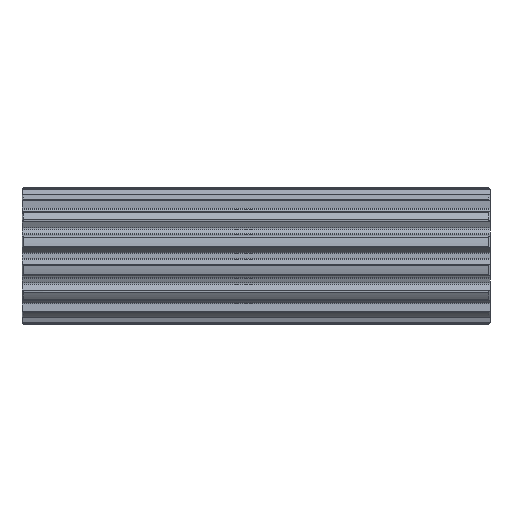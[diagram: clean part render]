
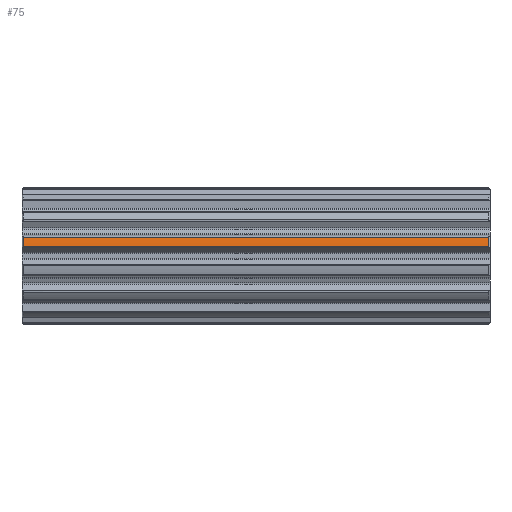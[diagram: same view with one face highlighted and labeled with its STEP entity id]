
A CAD part, front view. The second image highlights one B-rep face of the part: STEP entity #75.
In plain terms, the highlighted cylindrical face has radius 23.37 mm (diameter 46.74 mm), a partial arc.
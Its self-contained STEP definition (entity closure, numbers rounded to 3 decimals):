
#75=ADVANCED_FACE('',(#271),#272,.T.);
#271=FACE_OUTER_BOUND('',#605,.T.);
#272=CYLINDRICAL_SURFACE('',#606,23.37);
#605=EDGE_LOOP('',(#1111,#1112,#1113,#1114));
#606=AXIS2_PLACEMENT_3D('',#1115,#1116,#1117);
#1111=ORIENTED_EDGE('',*,*,#2460,.T.);
#1112=ORIENTED_EDGE('',*,*,#2461,.T.);
#1113=ORIENTED_EDGE('',*,*,#2462,.T.);
#1114=ORIENTED_EDGE('',*,*,#2463,.T.);
#1115=CARTESIAN_POINT('',(80.0,0.0,0.0));
#1116=DIRECTION('',(1.0,0.0,-0.0));
#1117=DIRECTION('',(0.0,0.208,0.978));
#2460=EDGE_CURVE('',#3040,#3049,#3051,.T.);
#2461=EDGE_CURVE('',#3049,#3052,#3053,.T.);
#2462=EDGE_CURVE('',#3052,#3054,#3055,.T.);
#2463=EDGE_CURVE('',#3054,#3040,#3056,.T.);
#3040=VERTEX_POINT('',#4316);
#3049=VERTEX_POINT('',#4350);
#3051=CIRCLE('',#4359,23.37);
#3052=VERTEX_POINT('',#4360);
#3053=LINE('',#4361,#4362);
#3054=VERTEX_POINT('',#4363);
#3055=CIRCLE('',#4364,23.37);
#3056=LINE('',#4365,#4366);
#4316=CARTESIAN_POINT('',(0.5,-22.462,6.451));
#4350=CARTESIAN_POINT('',(0.5,-23.144,3.243));
#4359=AXIS2_PLACEMENT_3D('',#5718,#5719,#5720);
#4360=CARTESIAN_POINT('',(159.5,-23.144,3.243));
#4361=CARTESIAN_POINT('',(80.0,-23.144,3.243));
#4362=VECTOR('',#5721,1.0);
#4363=CARTESIAN_POINT('',(159.5,-22.462,6.451));
#4364=AXIS2_PLACEMENT_3D('',#5722,#5723,#5724);
#4365=CARTESIAN_POINT('',(80.0,-22.462,6.451));
#4366=VECTOR('',#5725,1.0);
#5718=CARTESIAN_POINT('',(0.5,0.0,0.0));
#5719=DIRECTION('',(1.0,0.0,0.));
#5720=DIRECTION('',(0.,0.208,0.978));
#5721=DIRECTION('',(1.0,0.0,0.0));
#5722=CARTESIAN_POINT('',(159.5,0.0,0.0));
#5723=DIRECTION('',(-1.0,0.0,0.0));
#5724=DIRECTION('',(0.0,0.208,0.978));
#5725=DIRECTION('',(-1.0,0.0,0.0));
